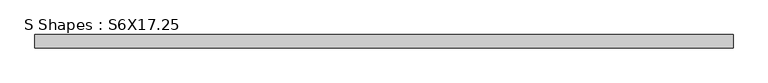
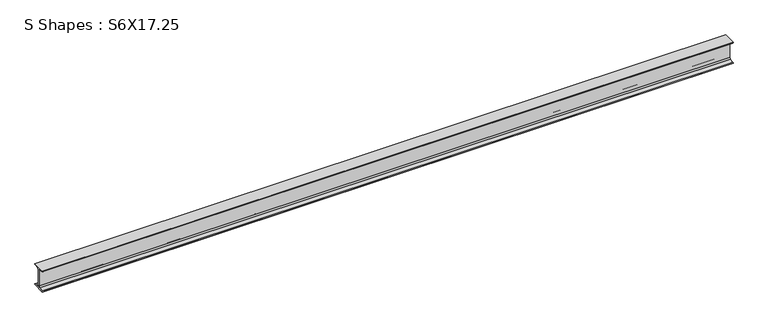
"""IFC4 building model written with IfcOpenShell, lengths in millimetres: beam geometry, S Shapes : S6X17.25."""

from ifc_helpers import new_model, si_unit, point, frame, frame_2d, origin, place, context, project, spatial, polyline, circle_curve, trimmed, segment, composite_curve, outline, extrude, source, transform, mapped, element, save


def s_shapes_s6x17_25_87abacaf(model_context):
    return source(origin(), model_context, "Body", "SweptSolid", [
        extrude(outline(composite_curve([segment(polyline([(-45.339, 76.2), (45.339, 76.2), (45.339, 74.2298368)]), True, "CONTINUOUS"), segment(trimmed(circle_curve(frame_2d((40.7797, 74.2298368)), 4.5593), [point((45.339, 74.2298368))], [point((41.5292458, 69.7325713))], False, "CARTESIAN"), True, "CONTINUOUS"), segment(polyline([(41.5292458, 69.7325713), (13.5250085, 65.065189)]), True, "CONTINUOUS"), segment(trimmed(circle_curve(frame_2d((15.0241, 56.0706579)), 9.1186), [point((13.5250085, 65.065189))], [point((5.9055, 56.0706579))], True, "CARTESIAN"), True, "CONTINUOUS"), segment(polyline([(5.9055, 56.0706579), (5.9055, -56.0706579)]), True, "CONTINUOUS"), segment(trimmed(circle_curve(frame_2d((15.0241, -56.0706579)), 9.1186), [point((5.9055, -56.0706579))], [point((13.5250085, -65.065189))], True, "CARTESIAN"), True, "CONTINUOUS"), segment(polyline([(13.5250085, -65.065189), (41.5292458, -69.7325713)]), True, "CONTINUOUS"), segment(trimmed(circle_curve(frame_2d((40.7797, -74.2298368)), 4.5593), [point((41.5292458, -69.7325713))], [point((45.339, -74.2298368))], False, "CARTESIAN"), True, "CONTINUOUS"), segment(polyline([(45.339, -74.2298368), (45.339, -76.2), (-45.339, -76.2), (-45.339, -74.2298368)]), True, "CONTINUOUS"), segment(trimmed(circle_curve(frame_2d((-40.7797, -74.2298368)), 4.5593), [point((-45.339, -74.2298368))], [point((-41.5292458, -69.7325713))], False, "CARTESIAN"), True, "CONTINUOUS"), segment(polyline([(-41.5292458, -69.7325713), (-13.5250085, -65.065189)]), True, "CONTINUOUS"), segment(trimmed(circle_curve(frame_2d((-15.0241, -56.0706579)), 9.1186), [point((-13.5250085, -65.065189))], [point((-5.9055, -56.0706579))], True, "CARTESIAN"), True, "CONTINUOUS"), segment(polyline([(-5.9055, -56.0706579), (-5.9055, 56.0706579)]), True, "CONTINUOUS"), segment(trimmed(circle_curve(frame_2d((-15.0241, 56.0706579)), 9.1186), [point((-5.9055, 56.0706579))], [point((-13.5250085, 65.065189))], True, "CARTESIAN"), True, "CONTINUOUS"), segment(polyline([(-13.5250085, 65.065189), (-41.5292458, 69.7325713)]), True, "CONTINUOUS"), segment(trimmed(circle_curve(frame_2d((-40.7797, 74.2298368)), 4.5593), [point((-41.5292458, 69.7325713))], [point((-45.339, 74.2298368))], False, "CARTESIAN"), True, "CONTINUOUS"), segment(polyline([(-45.339, 74.2298368), (-45.339, 76.2)]), True, "CONTINUOUS")], self_intersect=False)), frame((-2385.446, 0.0, 0.0), z_axis=(1.0, 0.0, 0.0), x_axis=(0.0, 1.0, 0.0)), (0.0, 0.0, 1.0), 4770.892),
    ])


if __name__ == "__main__":
    model = new_model("IFC4")
    model_context = context("Model", 3, world=origin())
    ifc_project = project(units=[si_unit("LENGTHUNIT", "METRE", prefix="MILLI")], contexts=[model_context])
    site = spatial("IfcSite", under=ifc_project)
    building = spatial("IfcBuilding", under=site)
    placement = place(None, origin())
    s_shapes_s6x17_25_shape = s_shapes_s6x17_25_87abacaf(model_context)
    element("IfcBeam", 1, ObjectType="S Shapes : S6X17.25", at=placement, inside=building, context=model_context, shape_type="MappedRepresentation", body=[
        mapped(s_shapes_s6x17_25_shape, transform((0.0, 0.0, 0.0), x_axis=(1.0, 0.0, 0.0), y_axis=(0.0, 1.0, 0.0), z_axis=(0.0, 0.0, 1.0))),
    ])
    save(model, "model.ifc")
